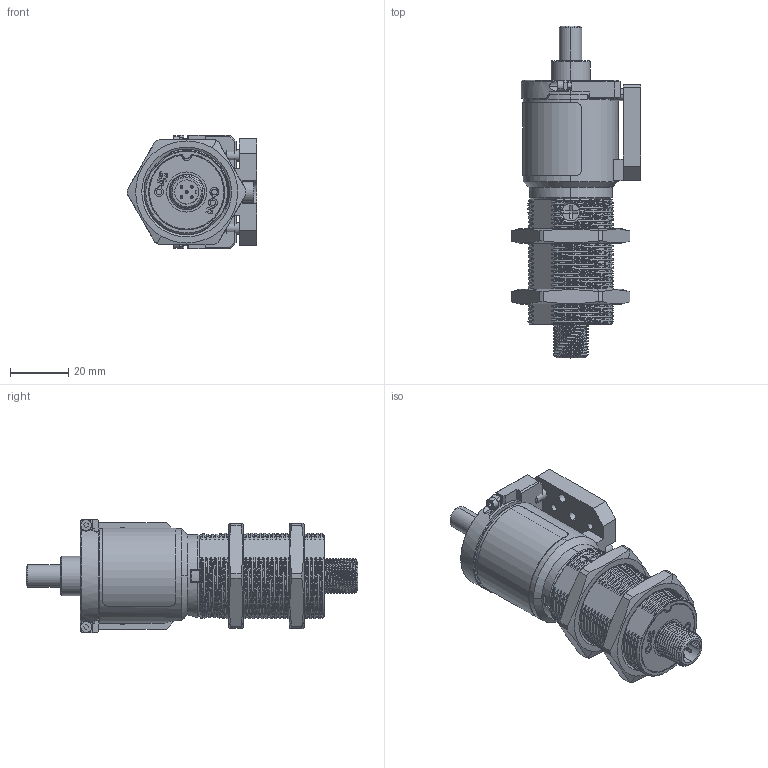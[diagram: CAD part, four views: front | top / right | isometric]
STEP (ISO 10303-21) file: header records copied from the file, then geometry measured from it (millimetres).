
FILE_DESCRIPTION (( 'STEP AP214' ), '1' );
FILE_NAME ('TPL Z-SPOT COAX - Customer.STEP', '2025-06-05T15:08:09', ( '' ), ( '' ), 'SwSTEP 2.0', 'SolidWorks 2021', '' );
FILE_SCHEMA (( 'AUTOMOTIVE_DESIGN' ));
Length unit declared in the file: metre
Products named in the file (11): Z-SPOT Customer CAD_1; Bracket for Z-SPOT lock ring_1; M2_1; 048424-A; M30 x 1.5 NUT_1; TPL Z-SPOT COAX - Customer; LABEL_1; M4-cap-adjust_M4x6_1_1; Locking ring_1; Top locking ring_1; LEDS_1
Assembly tree (14 placements, depth 2):
  TPL Z-SPOT COAX - Customer
    Z-SPOT Customer CAD_1
    Locking ring_1
    Top locking ring_1
    M2_1  x2
    LABEL_1
    LEDS_1
    M30 x 1.5 NUT_1  x2
    Bracket for Z-SPOT lock ring_1
    M4-cap-adjust_M4x6_1_1  x3
    048424-A
Bounding box: 44.35 x 113.9 x 38.95 mm (x, y, z)
Volume: 85139.1 mm3; surface area: 32501 mm2
Topology: 16 solids, 18 shells, 973 faces, 2656 edges, 1754 vertices
Faces by surface type: cylinder 346, plane 292, bspline 242, cone 93
Entity records: 264068 total; most frequent: CARTESIAN_POINT 233839, ORIENTED_EDGE 4952, DIRECTION 3110, EDGE_CURVE 2476, VERTEX_POINT 1646, AXIS2_PLACEMENT_3D 1123, EDGE_LOOP 984, UNCERTAINTY_MEASURE_WITH_UNIT 934
